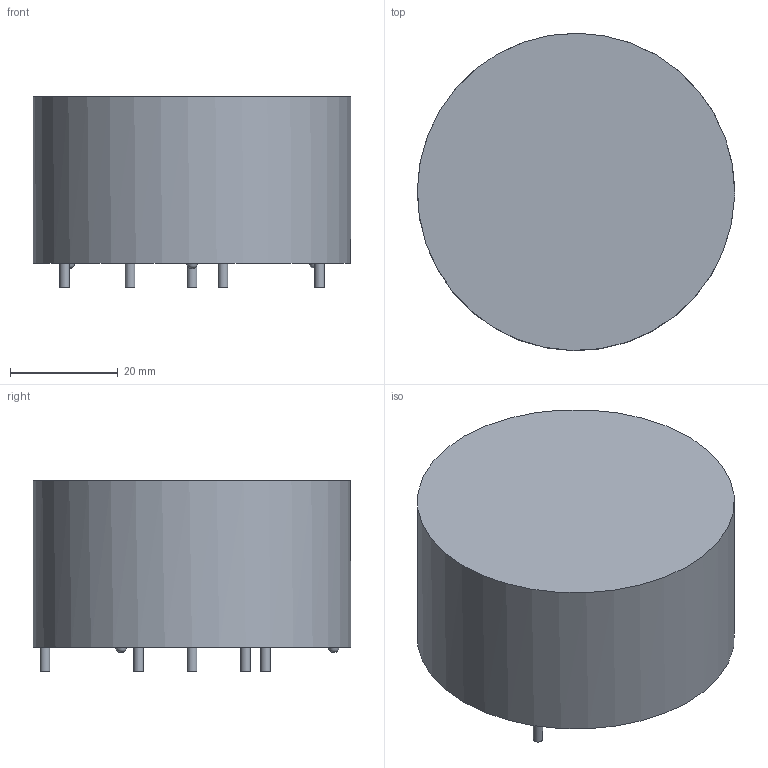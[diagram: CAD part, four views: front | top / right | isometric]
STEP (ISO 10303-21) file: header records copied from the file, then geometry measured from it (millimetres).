
FILE_DESCRIPTION(/* description */ (''),/* implementation_level */ '2;1');
FILE_NAME(/* name */ 'F:\Done\2016\多产品3D模拟\\X2\4FEE653994885F84\X0\\6123-X316\6123-X316 3D Model.stp',/* time_stamp */ '2016-07-08T16:07:42+08:00',/* author */ ('CN000562'),/* organization */ (''),/* preprocessor_version */ 'ST-DEVELOPER v16.5',/* originating_system */ 'Autodesk Inventor 2017',/* authorisation */ '');
FILE_SCHEMA (('AUTOMOTIVE_DESIGN { 1 0 10303 214 3 1 1 }'));
Length unit declared in the file: millimetre
Products named in the file (1): 6123-X316
Bounding box: 59 x 58.99 x 35.5 mm (x, y, z)
Volume: 84821.1 mm3; surface area: 11381 mm2
Topology: 1 solids, 1 shells, 20 faces, 39 edges, 27 vertices
Faces by surface type: plane 9, cylinder 8, sphere 3
Full cylindrical faces by diameter (mm): 1.8 x6, 59 x1
Entity records: 444 total; most frequent: DIRECTION 84, CARTESIAN_POINT 63, ORIENTED_EDGE 44, AXIS2_PLACEMENT_3D 41, EDGE_LOOP 36, EDGE_CURVE 22, FACE_OUTER_BOUND 20, CIRCLE 20
